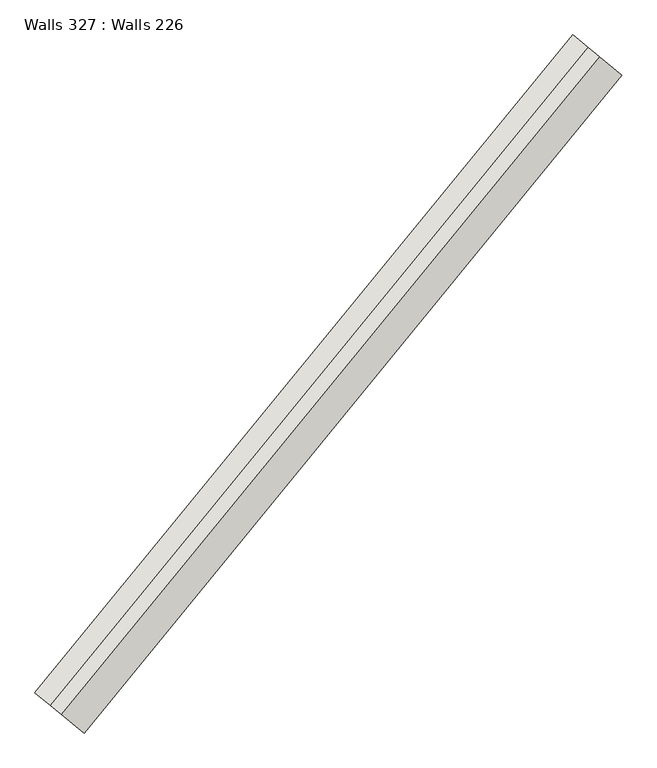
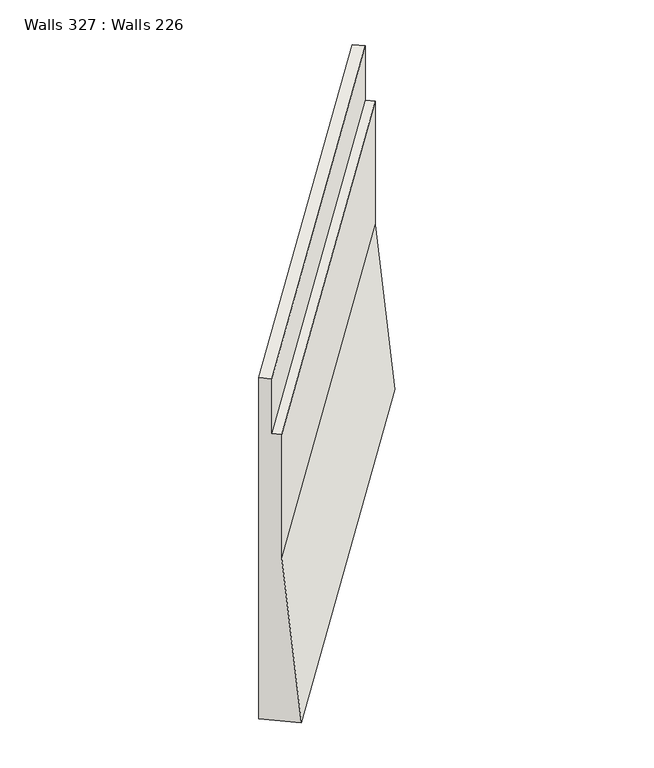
"""IFC4 building model written with IfcOpenShell, lengths in millimetres: wall geometry, Walls 327 : Walls 226."""

import ifcopenshell
import ifcopenshell.guid

model = None  # the IFC model being written
_history = None  # IfcOwnerHistory: only IFC2X3 demands one
_inside = {}  # id of a spatial element -> (the spatial element, [elements in it])
_under = {}  # id of a project, library or spatial element -> (it, [spatial elements below it])
_declared = {}  # id of a project -> (the project, [libraries it declares])
_typed = {}  # id of a type object -> (the type object, [elements of that type])
_made_of = {}  # id of a material, layer set ... -> (it, [elements and type objects made of it])


def new_model(schema):
    """Start an empty IFC model of exactly this schema.

    Asked for "IFC4X3", IfcOpenShell would pick the latest addendum, in which some entities
    have other attributes; the version numbers below select the first issue.
    IFC2X3 requires an IfcOwnerHistory on every rooted entity: one is made here for all.
    """
    global model, _history
    if schema == "IFC4X3":
        model = ifcopenshell.file(schema_version=(4, 3, 0, 0))
    else:
        model = ifcopenshell.file(schema=schema)
    _inside.clear()
    _under.clear()
    _declared.clear()
    _typed.clear()
    _made_of.clear()
    _history = None
    if model.schema == "IFC2X3":
        org = make("IfcOrganization", Name="unknown")
        user = make(
            "IfcPersonAndOrganization",
            ThePerson=make("IfcPerson", FamilyName="unknown"),
            TheOrganization=org,
        )
        app = make(
            "IfcApplication",
            ApplicationDeveloper=org,
            Version="unknown",
            ApplicationFullName="unknown",
            ApplicationIdentifier="unknown",
        )
        _history = make(
            "IfcOwnerHistory",
            OwningUser=user,
            OwningApplication=app,
            ChangeAction="ADDED",
            CreationDate=0,
        )
    return model


def make(cls, **values):
    """One entity of the class cls with the attributes given. An attribute that is None is left unset."""
    return model.create_entity(
        cls, **{name: value for name, value in values.items() if value is not None}
    )


def rooted(cls, **values):
    """An entity with a GlobalId (a new one), such as an element, a storey or a relation."""
    return make(cls, GlobalId=ifcopenshell.guid.new(), OwnerHistory=_history, **values)


def si_unit(unit_type, name, prefix=None):
    """IfcSIUnit, for example si_unit("LENGTHUNIT", "METRE", prefix="MILLI")."""
    return make("IfcSIUnit", UnitType=unit_type, Prefix=prefix, Name=name)


def assignment(units):
    """IfcUnitAssignment: the units of a project."""
    return None if units is None else make("IfcUnitAssignment", Units=units)


def point(xyz):
    """IfcCartesianPoint."""
    return None if xyz is None else make("IfcCartesianPoint", Coordinates=xyz)


def direction(xyz):
    """IfcDirection."""
    return None if xyz is None else make("IfcDirection", DirectionRatios=xyz)


def frame(location, z_axis=None, x_axis=None):
    """IfcAxis2Placement3D, a coordinate frame: its origin and axes. An axis left out is left unset."""
    return make(
        "IfcAxis2Placement3D",
        Location=point(location),
        Axis=direction(z_axis),
        RefDirection=direction(x_axis),
    )


def origin():
    """The frame at (0, 0, 0) with its axes left unset."""
    return frame((0.0, 0.0, 0.0))


def place(relative_to, where):
    """IfcLocalPlacement: puts the frame where relative to a parent placement (None: the world)."""
    return make(
        "IfcLocalPlacement", PlacementRelTo=relative_to, RelativePlacement=where
    )


def context(
    kind, dimensions, precision=None, world=None, true_north=None, identifier=None
):
    """IfcGeometricRepresentationContext, for example the 3D "Model" context."""
    return make(
        "IfcGeometricRepresentationContext",
        ContextIdentifier=identifier,
        ContextType=kind,
        CoordinateSpaceDimension=dimensions,
        Precision=precision,
        WorldCoordinateSystem=world,
        TrueNorth=true_north,
    )


def project(units=None, contexts=None):
    """IfcProject with its units and contexts."""
    return rooted(
        "IfcProject",
        Name="project",
        RepresentationContexts=contexts,
        UnitsInContext=assignment(units),
    )


def spatial(cls, under=None, at=None, **own):
    """A site, building, storey or space (cls), placed at a placement, below another one or the project."""
    s = rooted(cls, ObjectPlacement=at, **own)
    if under is not None:
        _under.setdefault(under.id(), (under, []))[1].append(s)
    return s


def faces_of(points, faces, orient=None, outer=None):
    """IfcFace entities. A face is a list of loops; a loop is a list of indices into points, from 0.

    orient and outer hold one flag for each loop. By default every Orientation is true, the
    first loop of a face is its IfcFaceOuterBound and the others are IfcFaceBound.
    """
    made = []
    for i, loops in enumerate(faces):
        bounds = []
        for j, loop in enumerate(loops):
            is_outer = j == 0 if outer is None else outer[i][j]
            bounds.append(
                make(
                    "IfcFaceOuterBound" if is_outer else "IfcFaceBound",
                    Bound=make("IfcPolyLoop", Polygon=[points[k] for k in loop]),
                    Orientation=True if orient is None else orient[i][j],
                )
            )
        made.append(make("IfcFace", Bounds=bounds))
    return made


def faceted_brep(points, faces, orient=None, outer=None, voids=None):
    """IfcFacetedBrep: a solid bounded by flat faces; with voids (closed shells), ...WithVoids."""
    shared = [point(p) for p in points]
    hull = make("IfcClosedShell", CfsFaces=faces_of(shared, faces, orient, outer))
    if voids is None:
        return make("IfcFacetedBrep", Outer=hull)
    return make(
        "IfcFacetedBrepWithVoids",
        Outer=hull,
        Voids=[
            make(cls, CfsFaces=faces_of(shared, fs, o, b)) for cls, fs, o, b in voids
        ],
    )


def shape(context_of_items, identifier, shape_type, items):
    """IfcShapeRepresentation: the items that make up one representation, for example the "Body"."""
    return make(
        "IfcShapeRepresentation",
        ContextOfItems=context_of_items,
        RepresentationIdentifier=identifier,
        RepresentationType=shape_type,
        Items=items,
    )


def source(mapping_origin, context_of_items, identifier, shape_type, items):
    """IfcRepresentationMap: a shape defined once, which mapped items show again and again."""
    return make(
        "IfcRepresentationMap",
        MappingOrigin=mapping_origin,
        MappedRepresentation=shape(context_of_items, identifier, shape_type, items),
    )


def transform(
    local_origin,
    x_axis=None,
    y_axis=None,
    z_axis=None,
    scale=None,
    scale2=None,
    scale3=None,
    uniform=True,
):
    """IfcCartesianTransformationOperator3D, or its non-uniform kind. x_axis, y_axis, z_axis: its Axis1, 2, 3."""
    if uniform:
        return make(
            "IfcCartesianTransformationOperator3D",
            Axis1=direction(x_axis),
            Axis2=direction(y_axis),
            LocalOrigin=point(local_origin),
            Scale=scale,
            Axis3=direction(z_axis),
        )
    return make(
        "IfcCartesianTransformationOperator3DnonUniform",
        Axis1=direction(x_axis),
        Axis2=direction(y_axis),
        LocalOrigin=point(local_origin),
        Scale=scale,
        Axis3=direction(z_axis),
        Scale2=scale2,
        Scale3=scale3,
    )


def mapped(mapping_source, mapping_target):
    """IfcMappedItem: shows the shape of a source again, moved by a transform."""
    return make(
        "IfcMappedItem", MappingSource=mapping_source, MappingTarget=mapping_target
    )


def made_of(thing, what):
    """Note that an element or type object is made of a material, layer set ...; save() writes the relation."""
    if what is not None:
        _made_of.setdefault(what.id(), (what, []))[1].append(thing)
    return thing


def element(
    cls,
    number,
    at=None,
    inside=None,
    cuts=None,
    type_object=None,
    material=None,
    context=None,
    identifier="Body",
    shape_type=None,
    held_by="IfcProductDefinitionShape",
    body=None,
    shapes=None,
    **own,
):
    """One element of the class cls, such as IfcWall. Its Tag is "e" and its number.

    at: its placement. inside: the storey or other place that contains it. cuts: it is an
    opening in that element (IfcRelVoidsElement). A single representation is given by context,
    identifier, shape_type and body (its items); several are given by shapes. held_by: the class
    of the entity that holds the representations. save() writes the other relations.
    """
    e = rooted(cls, Tag="e%d" % number, ObjectPlacement=at, **own)
    if body is not None:
        shapes = [shape(context, identifier, shape_type, body)]
    if shapes is not None:
        e.Representation = make(held_by, Representations=shapes)
    if inside is not None:
        _inside.setdefault(inside.id(), (inside, []))[1].append(e)
    if cuts is not None:
        rooted(
            "IfcRelVoidsElement", RelatingBuildingElement=cuts, RelatedOpeningElement=e
        )
    if type_object is not None:
        _typed.setdefault(type_object.id(), (type_object, []))[1].append(e)
    return made_of(e, material)


def aggregate(whole, parts):
    """IfcRelAggregates: a whole, such as a stair, and the parts it consists of."""
    return rooted("IfcRelAggregates", RelatingObject=whole, RelatedObjects=parts)


def save(model, path):
    """Write the relations noted so far, then the file.

    IfcRelAggregates (storeys below a building ...), IfcRelContainedInSpatialStructure (elements
    in a storey), IfcRelDefinesByType, IfcRelAssociatesMaterial and IfcRelDeclares: one each for
    every whole, place, type object, material and project.
    """
    for whole, parts in _under.values():
        aggregate(whole, parts)
    for where, things in _inside.values():
        rooted(
            "IfcRelContainedInSpatialStructure",
            RelatedElements=things,
            RelatingStructure=where,
        )
    for kind, things in _typed.values():
        rooted("IfcRelDefinesByType", RelatedObjects=things, RelatingType=kind)
    for what, things in _made_of.values():
        rooted("IfcRelAssociatesMaterial", RelatedObjects=things, RelatingMaterial=what)
    for by, libraries in _declared.values():
        rooted("IfcRelDeclares", RelatingContext=by, RelatedDefinitions=libraries)
    model.write(path)


def walls_327_walls_226_81a29919(model_context):
    return source(origin(), model_context, "Body", "Brep", [
        faceted_brep([(405820.9812654, 278688.6069597, 645938.0), (405588.7926322, 278878.5765326, 648938.0), (405588.7926322, 278878.5765326, 651208.0), (405472.6983156, 278973.561319, 651208.0), (405472.6983156, 278973.561319, 652208.0), (405317.9058934, 279100.2077009, 652208.0), (405317.9058934, 279100.2077009, 645938.0), (411330.0988791, 285422.0773229, 646050.0), (410827.0235072, 285833.6780641, 646050.0), (410827.0235072, 285833.6780641, 652317.0), (410981.8159293, 285707.0316822, 652317.0), (410981.8159293, 285707.0316822, 651317.0), (411097.9102459, 285612.0468957, 651317.0), (411097.9102459, 285612.0468957, 649050.0)], [[[0, 1, 2, 3, 4, 5, 6]], [[7, 8, 9, 10, 11, 12, 13]], [[7, 13, 1, 0]], [[13, 12, 2, 1]], [[12, 11, 3, 2]], [[11, 10, 4, 3]], [[10, 9, 5, 4]], [[9, 8, 6, 5]], [[8, 7, 0, 6]]]),
    ])


if __name__ == "__main__":
    model = new_model("IFC4")
    model_context = context("Model", 3, world=origin())
    ifc_project = project(units=[si_unit("LENGTHUNIT", "METRE", prefix="MILLI")], contexts=[model_context])
    site = spatial("IfcSite", under=ifc_project)
    building = spatial("IfcBuilding", under=site)
    placement = place(None, origin())
    walls_327_walls_226_shape = walls_327_walls_226_81a29919(model_context)
    element("IfcWall", 1, ObjectType="Walls 327 : Walls 226", at=placement, inside=building, context=model_context, shape_type="MappedRepresentation", body=[
        mapped(walls_327_walls_226_shape, transform((0.0, 0.0, 0.0), x_axis=(1.0, 0.0, 0.0), y_axis=(0.0, 1.0, 0.0), z_axis=(0.0, 0.0, 1.0))),
    ])
    save(model, "model.ifc")
